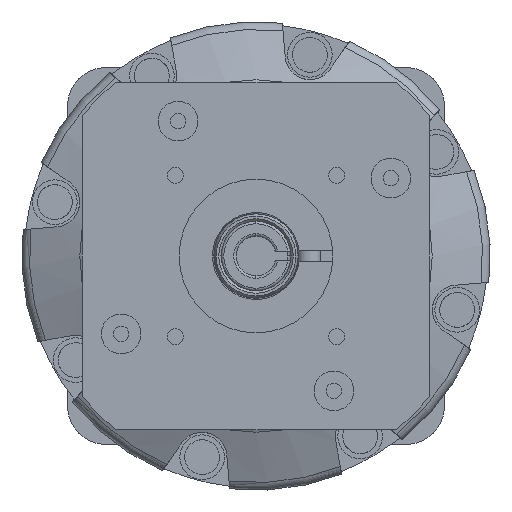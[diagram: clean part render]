
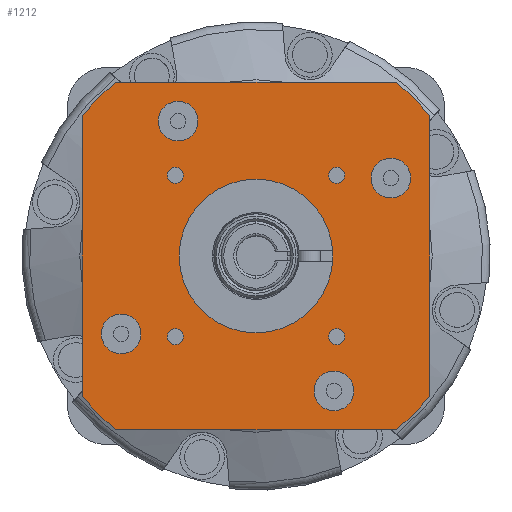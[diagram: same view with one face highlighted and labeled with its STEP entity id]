
A CAD part, left-side view. The second image highlights one B-rep face of the part: STEP entity #1212.
In plain terms, the highlighted planar face has unit normal (-1, 0, 0).
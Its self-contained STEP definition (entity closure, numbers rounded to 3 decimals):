
#1212=ADVANCED_FACE('',(#2475,#2476,#2477,#2478,#2479,#2480,#2481,#2482,#2483,#2484),#2485,.F.);
#2475=FACE_BOUND('',#3786,.T.);
#2476=FACE_BOUND('',#3787,.T.);
#2477=FACE_BOUND('',#3788,.T.);
#2478=FACE_BOUND('',#3789,.T.);
#2479=FACE_BOUND('',#3790,.T.);
#2480=FACE_BOUND('',#3791,.T.);
#2481=FACE_BOUND('',#3792,.T.);
#2482=FACE_BOUND('',#3793,.T.);
#2483=FACE_BOUND('',#3794,.T.);
#2484=FACE_OUTER_BOUND('',#3795,.T.);
#2485=PLANE('',#3796);
#3786=EDGE_LOOP('',(#7080,#7081));
#3787=EDGE_LOOP('',(#7082,#7083));
#3788=EDGE_LOOP('',(#7084,#7085));
#3789=EDGE_LOOP('',(#7086,#7087));
#3790=EDGE_LOOP('',(#7088,#7089));
#3791=EDGE_LOOP('',(#7090,#7091));
#3792=EDGE_LOOP('',(#7092,#7093));
#3793=EDGE_LOOP('',(#7094,#7095));
#3794=EDGE_LOOP('',(#7096,#7097));
#3795=EDGE_LOOP('',(#7098,#7099,#7100,#7101,#7102,#7103,#7104,#7105));
#3796=AXIS2_PLACEMENT_3D('',#7106,#7107,#7108);
#7080=ORIENTED_EDGE('',*,*,#8549,.T.);
#7081=ORIENTED_EDGE('',*,*,#8579,.T.);
#7082=ORIENTED_EDGE('',*,*,#8539,.T.);
#7083=ORIENTED_EDGE('',*,*,#8584,.T.);
#7084=ORIENTED_EDGE('',*,*,#8529,.T.);
#7085=ORIENTED_EDGE('',*,*,#8591,.T.);
#7086=ORIENTED_EDGE('',*,*,#8519,.T.);
#7087=ORIENTED_EDGE('',*,*,#8598,.T.);
#7088=ORIENTED_EDGE('',*,*,#8509,.T.);
#7089=ORIENTED_EDGE('',*,*,#8605,.T.);
#7090=ORIENTED_EDGE('',*,*,#8504,.T.);
#7091=ORIENTED_EDGE('',*,*,#8609,.T.);
#7092=ORIENTED_EDGE('',*,*,#8499,.T.);
#7093=ORIENTED_EDGE('',*,*,#8613,.T.);
#7094=ORIENTED_EDGE('',*,*,#8494,.T.);
#7095=ORIENTED_EDGE('',*,*,#8617,.T.);
#7096=ORIENTED_EDGE('',*,*,#8489,.T.);
#7097=ORIENTED_EDGE('',*,*,#8621,.T.);
#7098=ORIENTED_EDGE('',*,*,#8662,.T.);
#7099=ORIENTED_EDGE('',*,*,#8665,.T.);
#7100=ORIENTED_EDGE('',*,*,#8659,.T.);
#7101=ORIENTED_EDGE('',*,*,#8669,.F.);
#7102=ORIENTED_EDGE('',*,*,#8655,.T.);
#7103=ORIENTED_EDGE('',*,*,#8671,.F.);
#7104=ORIENTED_EDGE('',*,*,#8650,.T.);
#7105=ORIENTED_EDGE('',*,*,#8667,.F.);
#7106=CARTESIAN_POINT('',(-57.7,0.,0.));
#7107=DIRECTION('',(1.0,0.0,0.0));
#7108=DIRECTION('',(0.0,1.0,0.0));
#8489=EDGE_CURVE('',#10327,#10331,#10333,.T.);
#8494=EDGE_CURVE('',#10336,#10340,#10342,.T.);
#8499=EDGE_CURVE('',#10345,#10349,#10351,.T.);
#8504=EDGE_CURVE('',#10354,#10358,#10360,.T.);
#8509=EDGE_CURVE('',#10363,#10367,#10369,.T.);
#8519=EDGE_CURVE('',#10381,#10385,#10387,.T.);
#8529=EDGE_CURVE('',#10399,#10403,#10405,.T.);
#8539=EDGE_CURVE('',#10417,#10421,#10423,.T.);
#8549=EDGE_CURVE('',#10435,#10439,#10441,.T.);
#8579=EDGE_CURVE('',#10439,#10435,#10484,.T.);
#8584=EDGE_CURVE('',#10421,#10417,#10489,.T.);
#8591=EDGE_CURVE('',#10403,#10399,#10496,.T.);
#8598=EDGE_CURVE('',#10385,#10381,#10503,.T.);
#8605=EDGE_CURVE('',#10367,#10363,#10510,.T.);
#8609=EDGE_CURVE('',#10358,#10354,#10514,.T.);
#8613=EDGE_CURVE('',#10349,#10345,#10518,.T.);
#8617=EDGE_CURVE('',#10340,#10336,#10522,.T.);
#8621=EDGE_CURVE('',#10331,#10327,#10526,.T.);
#8650=EDGE_CURVE('',#10568,#10566,#10569,.T.);
#8655=EDGE_CURVE('',#10572,#10574,#10576,.T.);
#8659=EDGE_CURVE('',#10578,#10580,#10582,.T.);
#8662=EDGE_CURVE('',#10586,#10584,#10587,.T.);
#8665=EDGE_CURVE('',#10584,#10578,#10590,.T.);
#8667=EDGE_CURVE('',#10586,#10566,#10592,.T.);
#8669=EDGE_CURVE('',#10572,#10580,#10594,.T.);
#8671=EDGE_CURVE('',#10568,#10574,#10596,.T.);
#10327=VERTEX_POINT('',#13865);
#10331=VERTEX_POINT('',#13870);
#10333=CIRCLE('',#13873,1.621);
#10336=VERTEX_POINT('',#13876);
#10340=VERTEX_POINT('',#13881);
#10342=CIRCLE('',#13884,1.621);
#10345=VERTEX_POINT('',#13887);
#10349=VERTEX_POINT('',#13892);
#10351=CIRCLE('',#13895,1.621);
#10354=VERTEX_POINT('',#13898);
#10358=VERTEX_POINT('',#13903);
#10360=CIRCLE('',#13906,1.621);
#10363=VERTEX_POINT('',#13909);
#10367=VERTEX_POINT('',#13914);
#10369=CIRCLE('',#13917,4.0);
#10381=VERTEX_POINT('',#13931);
#10385=VERTEX_POINT('',#13936);
#10387=CIRCLE('',#13939,4.0);
#10399=VERTEX_POINT('',#13953);
#10403=VERTEX_POINT('',#13958);
#10405=CIRCLE('',#13961,4.0);
#10417=VERTEX_POINT('',#13975);
#10421=VERTEX_POINT('',#13980);
#10423=CIRCLE('',#13983,4.0);
#10435=VERTEX_POINT('',#13997);
#10439=VERTEX_POINT('',#14002);
#10441=CIRCLE('',#14005,15.5);
#10484=CIRCLE('',#14121,15.5);
#10489=CIRCLE('',#14126,4.0);
#10496=CIRCLE('',#14133,4.0);
#10503=CIRCLE('',#14140,4.0);
#10510=CIRCLE('',#14147,4.0);
#10514=CIRCLE('',#14151,1.621);
#10518=CIRCLE('',#14155,1.621);
#10522=CIRCLE('',#14159,1.621);
#10526=CIRCLE('',#14163,1.621);
#10566=VERTEX_POINT('',#14254);
#10568=VERTEX_POINT('',#14257);
#10569=CIRCLE('',#14258,45.0);
#10572=VERTEX_POINT('',#14262);
#10574=VERTEX_POINT('',#14265);
#10576=CIRCLE('',#14268,45.0);
#10578=VERTEX_POINT('',#14270);
#10580=VERTEX_POINT('',#14273);
#10582=CIRCLE('',#14276,45.0);
#10584=VERTEX_POINT('',#14278);
#10586=VERTEX_POINT('',#14281);
#10587=CIRCLE('',#14282,45.0);
#10590=LINE('',#14286,#14287);
#10592=LINE('',#14289,#14290);
#10594=LINE('',#14292,#14293);
#10596=LINE('',#14295,#14296);
#13865=CARTESIAN_POINT('',(-57.7,-14.642,-16.263));
#13870=CARTESIAN_POINT('',(-57.7,-17.885,-16.263));
#13873=AXIS2_PLACEMENT_3D('',#16234,#16235,#16236);
#13876=CARTESIAN_POINT('',(-57.7,-14.642,16.263));
#13881=CARTESIAN_POINT('',(-57.7,-17.885,16.263));
#13884=AXIS2_PLACEMENT_3D('',#16242,#16243,#16244);
#13887=CARTESIAN_POINT('',(-57.7,17.885,16.263));
#13892=CARTESIAN_POINT('',(-57.7,14.642,16.263));
#13895=AXIS2_PLACEMENT_3D('',#16250,#16251,#16252);
#13898=CARTESIAN_POINT('',(-57.7,17.885,-16.263));
#13903=CARTESIAN_POINT('',(-57.7,14.642,-16.263));
#13906=AXIS2_PLACEMENT_3D('',#16258,#16259,#16260);
#13909=CARTESIAN_POINT('',(-57.7,19.7,27.193));
#13914=CARTESIAN_POINT('',(-57.7,11.7,27.193));
#13917=AXIS2_PLACEMENT_3D('',#16266,#16267,#16268);
#13931=CARTESIAN_POINT('',(-57.7,31.193,-15.7));
#13936=CARTESIAN_POINT('',(-57.7,23.193,-15.7));
#13939=AXIS2_PLACEMENT_3D('',#16282,#16283,#16284);
#13953=CARTESIAN_POINT('',(-57.7,-11.7,-27.193));
#13958=CARTESIAN_POINT('',(-57.7,-19.7,-27.193));
#13961=AXIS2_PLACEMENT_3D('',#16298,#16299,#16300);
#13975=CARTESIAN_POINT('',(-57.7,-23.193,15.7));
#13980=CARTESIAN_POINT('',(-57.7,-31.193,15.7));
#13983=AXIS2_PLACEMENT_3D('',#16314,#16315,#16316);
#13997=CARTESIAN_POINT('',(-57.7,15.5,0.));
#14002=CARTESIAN_POINT('',(-57.7,-15.5,0.));
#14005=AXIS2_PLACEMENT_3D('',#16330,#16331,#16332);
#14121=AXIS2_PLACEMENT_3D('',#16372,#16373,#16374);
#14126=AXIS2_PLACEMENT_3D('',#16381,#16382,#16383);
#14133=AXIS2_PLACEMENT_3D('',#16393,#16394,#16395);
#14140=AXIS2_PLACEMENT_3D('',#16405,#16406,#16407);
#14147=AXIS2_PLACEMENT_3D('',#16417,#16418,#16419);
#14151=AXIS2_PLACEMENT_3D('',#16423,#16424,#16425);
#14155=AXIS2_PLACEMENT_3D('',#16429,#16430,#16431);
#14159=AXIS2_PLACEMENT_3D('',#16435,#16436,#16437);
#14163=AXIS2_PLACEMENT_3D('',#16441,#16442,#16443);
#14254=CARTESIAN_POINT('',(-57.7,-35.0,-28.284));
#14257=CARTESIAN_POINT('',(-57.7,-28.284,-35.0));
#14258=AXIS2_PLACEMENT_3D('',#16477,#16478,#16479);
#14262=CARTESIAN_POINT('',(-57.7,35.0,-28.284));
#14265=CARTESIAN_POINT('',(-57.7,28.284,-35.0));
#14268=AXIS2_PLACEMENT_3D('',#16483,#16484,#16485);
#14270=CARTESIAN_POINT('',(-57.7,28.284,35.0));
#14273=CARTESIAN_POINT('',(-57.7,35.0,28.284));
#14276=AXIS2_PLACEMENT_3D('',#16488,#16489,#16490);
#14278=CARTESIAN_POINT('',(-57.7,-28.284,35.0));
#14281=CARTESIAN_POINT('',(-57.7,-35.0,28.284));
#14282=AXIS2_PLACEMENT_3D('',#16492,#16493,#16494);
#14286=CARTESIAN_POINT('',(-57.7,0.,35.0));
#14287=VECTOR('',#16496,1.0);
#14289=CARTESIAN_POINT('',(-57.7,-35.0,0.));
#14290=VECTOR('',#16497,1.0);
#14292=CARTESIAN_POINT('',(-57.7,35.0,0.));
#14293=VECTOR('',#16498,1.0);
#14295=CARTESIAN_POINT('',(-57.7,0.,-35.0));
#14296=VECTOR('',#16499,1.0);
#16234=CARTESIAN_POINT('',(-57.7,-16.263,-16.263));
#16235=DIRECTION('',(1.0,0.0,0.0));
#16236=DIRECTION('',(0.0,1.0,0.0));
#16242=CARTESIAN_POINT('',(-57.7,-16.263,16.263));
#16243=DIRECTION('',(1.0,0.0,0.0));
#16244=DIRECTION('',(0.0,1.0,0.0));
#16250=CARTESIAN_POINT('',(-57.7,16.263,16.263));
#16251=DIRECTION('',(1.0,0.0,0.0));
#16252=DIRECTION('',(0.0,1.0,0.0));
#16258=CARTESIAN_POINT('',(-57.7,16.263,-16.263));
#16259=DIRECTION('',(1.0,0.0,0.0));
#16260=DIRECTION('',(0.0,1.0,0.0));
#16266=CARTESIAN_POINT('',(-57.7,15.7,27.193));
#16267=DIRECTION('',(1.0,0.0,0.0));
#16268=DIRECTION('',(0.0,1.0,0.0));
#16282=CARTESIAN_POINT('',(-57.7,27.193,-15.7));
#16283=DIRECTION('',(1.0,0.0,0.0));
#16284=DIRECTION('',(0.0,1.0,0.0));
#16298=CARTESIAN_POINT('',(-57.7,-15.7,-27.193));
#16299=DIRECTION('',(1.0,0.0,0.0));
#16300=DIRECTION('',(0.0,1.0,0.0));
#16314=CARTESIAN_POINT('',(-57.7,-27.193,15.7));
#16315=DIRECTION('',(1.0,0.0,0.0));
#16316=DIRECTION('',(0.0,1.0,0.0));
#16330=CARTESIAN_POINT('',(-57.7,0.,0.));
#16331=DIRECTION('',(1.0,0.0,0.0));
#16332=DIRECTION('',(0.0,1.0,0.0));
#16372=CARTESIAN_POINT('',(-57.7,0.,0.));
#16373=DIRECTION('',(1.0,0.0,0.0));
#16374=DIRECTION('',(0.0,1.0,0.0));
#16381=CARTESIAN_POINT('',(-57.7,-27.193,15.7));
#16382=DIRECTION('',(1.0,0.0,0.0));
#16383=DIRECTION('',(0.0,1.0,0.0));
#16393=CARTESIAN_POINT('',(-57.7,-15.7,-27.193));
#16394=DIRECTION('',(1.0,0.0,0.0));
#16395=DIRECTION('',(0.0,1.0,0.0));
#16405=CARTESIAN_POINT('',(-57.7,27.193,-15.7));
#16406=DIRECTION('',(1.0,0.0,0.0));
#16407=DIRECTION('',(0.0,1.0,0.0));
#16417=CARTESIAN_POINT('',(-57.7,15.7,27.193));
#16418=DIRECTION('',(1.0,0.0,0.0));
#16419=DIRECTION('',(0.0,1.0,0.0));
#16423=CARTESIAN_POINT('',(-57.7,16.263,-16.263));
#16424=DIRECTION('',(1.0,0.0,0.0));
#16425=DIRECTION('',(0.0,1.0,0.0));
#16429=CARTESIAN_POINT('',(-57.7,16.263,16.263));
#16430=DIRECTION('',(1.0,0.0,0.0));
#16431=DIRECTION('',(0.0,1.0,0.0));
#16435=CARTESIAN_POINT('',(-57.7,-16.263,16.263));
#16436=DIRECTION('',(1.0,0.0,0.0));
#16437=DIRECTION('',(0.0,1.0,0.0));
#16441=CARTESIAN_POINT('',(-57.7,-16.263,-16.263));
#16442=DIRECTION('',(1.0,0.0,0.0));
#16443=DIRECTION('',(0.0,1.0,0.0));
#16477=CARTESIAN_POINT('',(-57.7,0.,0.));
#16478=DIRECTION('',(-1.0,0.0,0.0));
#16479=DIRECTION('',(0.0,1.0,0.0));
#16483=CARTESIAN_POINT('',(-57.7,0.,0.));
#16484=DIRECTION('',(-1.0,0.0,0.0));
#16485=DIRECTION('',(0.0,1.0,0.0));
#16488=CARTESIAN_POINT('',(-57.7,0.,0.));
#16489=DIRECTION('',(-1.0,0.0,0.0));
#16490=DIRECTION('',(0.0,1.0,0.0));
#16492=CARTESIAN_POINT('',(-57.7,0.,0.));
#16493=DIRECTION('',(-1.0,0.0,0.0));
#16494=DIRECTION('',(0.0,1.0,0.0));
#16496=DIRECTION('',(0.0,1.0,0.0));
#16497=DIRECTION('',(0.0,0.0,-1.0));
#16498=DIRECTION('',(0.0,0.0,1.0));
#16499=DIRECTION('',(0.0,1.0,0.0));
